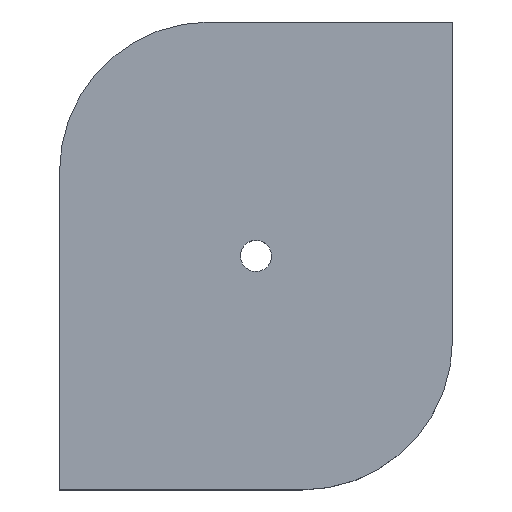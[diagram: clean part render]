
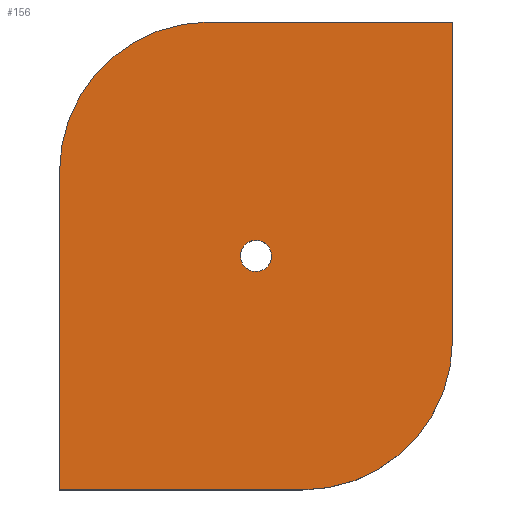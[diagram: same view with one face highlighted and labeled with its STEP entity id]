
A CAD part, top view. The second image highlights one B-rep face of the part: STEP entity #156.
In plain terms, the highlighted planar face has unit normal (0, 0, 1).
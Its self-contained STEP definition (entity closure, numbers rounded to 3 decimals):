
#63=CARTESIAN_POINT('Vertex',(48.825,64.508,20.)) ;
#77=CARTESIAN_POINT('Vertex',(56.175,60.492,20.)) ;
#80=CARTESIAN_POINT('Axis2P3D Location',(52.5,62.5,20.)) ;
#92=CARTESIAN_POINT('Axis2P3D Location',(0.,0.,20.)) ;
#97=CARTESIAN_POINT('Line Origine',(0.,42.5,20.)) ;
#101=CARTESIAN_POINT('Vertex',(0.,85.,20.)) ;
#103=CARTESIAN_POINT('Vertex',(0.,0.,20.)) ;
#106=CARTESIAN_POINT('Line Origine',(32.5,0.,20.)) ;
#110=CARTESIAN_POINT('Vertex',(65.,0.,20.)) ;
#113=CARTESIAN_POINT('Axis2P3D Location',(65.,40.,20.)) ;
#117=CARTESIAN_POINT('Vertex',(105.,40.,20.)) ;
#120=CARTESIAN_POINT('Line Origine',(105.,82.5,20.)) ;
#124=CARTESIAN_POINT('Vertex',(105.,125.,20.)) ;
#127=CARTESIAN_POINT('Line Origine',(72.5,125.,20.)) ;
#131=CARTESIAN_POINT('Vertex',(40.,125.,20.)) ;
#134=CARTESIAN_POINT('Axis2P3D Location',(40.,85.,20.)) ;
#147=CARTESIAN_POINT('Axis2P3D Location',(52.5,62.5,20.)) ;
#81=DIRECTION('Axis2P3D Direction',(0.,-0.,-1.)) ;
#93=DIRECTION('Axis2P3D Direction',(0.,0.,1.)) ;
#94=DIRECTION('Axis2P3D XDirection',(1.,0.,0.)) ;
#98=DIRECTION('Vector Direction',(0.,-1.,0.)) ;
#107=DIRECTION('Vector Direction',(1.,0.,0.)) ;
#114=DIRECTION('Axis2P3D Direction',(0.,0.,1.)) ;
#121=DIRECTION('Vector Direction',(0.,1.,0.)) ;
#128=DIRECTION('Vector Direction',(-1.,0.,0.)) ;
#135=DIRECTION('Axis2P3D Direction',(0.,0.,1.)) ;
#148=DIRECTION('Axis2P3D Direction',(0.,0.,1.)) ;
#82=AXIS2_PLACEMENT_3D('Circle Axis2P3D',#80,#81,$) ;
#95=AXIS2_PLACEMENT_3D('Plane Axis2P3D',#92,#93,#94) ;
#115=AXIS2_PLACEMENT_3D('Circle Axis2P3D',#113,#114,$) ;
#136=AXIS2_PLACEMENT_3D('Circle Axis2P3D',#134,#135,$) ;
#149=AXIS2_PLACEMENT_3D('Circle Axis2P3D',#147,#148,$) ;
#140=ORIENTED_EDGE('',*,*,#105,.T.) ;
#141=ORIENTED_EDGE('',*,*,#112,.T.) ;
#142=ORIENTED_EDGE('',*,*,#119,.F.) ;
#143=ORIENTED_EDGE('',*,*,#126,.T.) ;
#144=ORIENTED_EDGE('',*,*,#133,.T.) ;
#145=ORIENTED_EDGE('',*,*,#138,.F.) ;
#153=ORIENTED_EDGE('',*,*,#151,.F.) ;
#154=ORIENTED_EDGE('',*,*,#84,.F.) ;
#155=FACE_BOUND('',#152,.T.) ;
#99=VECTOR('Line Direction',#98,1.) ;
#108=VECTOR('Line Direction',#107,1.) ;
#122=VECTOR('Line Direction',#121,1.) ;
#129=VECTOR('Line Direction',#128,1.) ;
#156=ADVANCED_FACE('PartBody',(#146,#155),#96,.T.) ;
#83=CIRCLE('generated circle',#82,4.188) ;
#116=CIRCLE('generated circle',#115,40.) ;
#137=CIRCLE('generated circle',#136,40.) ;
#150=CIRCLE('generated circle',#149,4.188) ;
#84=EDGE_CURVE('',#78,#64,#83,.F.) ;
#105=EDGE_CURVE('',#102,#104,#100,.T.) ;
#112=EDGE_CURVE('',#104,#111,#109,.T.) ;
#119=EDGE_CURVE('',#118,#111,#116,.F.) ;
#126=EDGE_CURVE('',#118,#125,#123,.T.) ;
#133=EDGE_CURVE('',#125,#132,#130,.T.) ;
#138=EDGE_CURVE('',#102,#132,#137,.F.) ;
#151=EDGE_CURVE('',#64,#78,#150,.T.) ;
#139=EDGE_LOOP('',(#140,#141,#142,#143,#144,#145)) ;
#152=EDGE_LOOP('',(#153,#154)) ;
#146=FACE_OUTER_BOUND('',#139,.T.) ;
#100=LINE('Line',#97,#99) ;
#109=LINE('Line',#106,#108) ;
#123=LINE('Line',#120,#122) ;
#130=LINE('Line',#127,#129) ;
#96=PLANE('',#95) ;
#64=VERTEX_POINT('',#63) ;
#78=VERTEX_POINT('',#77) ;
#102=VERTEX_POINT('',#101) ;
#104=VERTEX_POINT('',#103) ;
#111=VERTEX_POINT('',#110) ;
#118=VERTEX_POINT('',#117) ;
#125=VERTEX_POINT('',#124) ;
#132=VERTEX_POINT('',#131) ;
